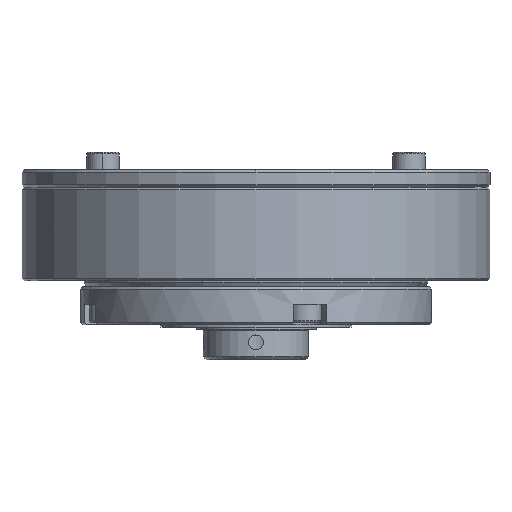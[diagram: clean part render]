
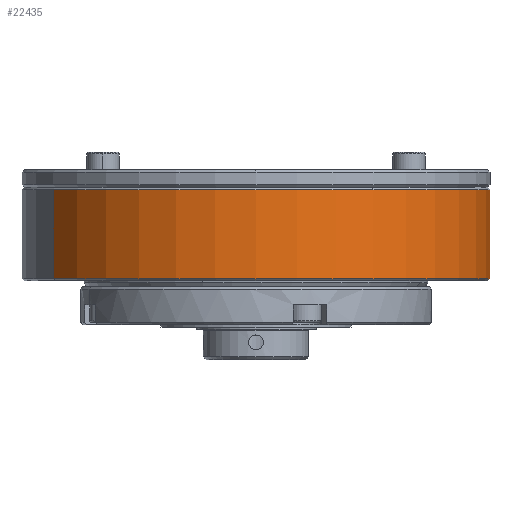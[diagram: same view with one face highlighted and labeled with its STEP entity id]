
A CAD part, front view. The second image highlights one B-rep face of the part: STEP entity #22435.
In plain terms, the highlighted cylindrical face has radius 40 mm (diameter 80 mm), a partial arc.
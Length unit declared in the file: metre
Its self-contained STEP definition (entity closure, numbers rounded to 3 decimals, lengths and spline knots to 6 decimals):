
#38 = CARTESIAN_POINT ( 'NONE',  ( 0., 0., 0.0073 ) ) ;
#988 = CARTESIAN_POINT ( 'NONE',  ( 0., 0., 0.0229 ) ) ;
#996 = EDGE_CURVE ( 'NONE', #29848, #3581, #8835, .T. ) ;
#1430 = CARTESIAN_POINT ( 'NONE',  ( 0.034641, 0.02, 0.0073 ) ) ;
#1969 = AXIS2_PLACEMENT_3D ( 'NONE', #38, #2480, #21440 ) ;
#2480 = DIRECTION ( 'NONE',  ( 0., 0., 1. ) ) ;
#2618 = VECTOR ( 'NONE', #25332, 1. ) ;
#2825 = EDGE_CURVE ( 'NONE', #10274, #3581, #22032, .T. ) ;
#3581 = VERTEX_POINT ( 'NONE', #26723 ) ;
#3887 = VERTEX_POINT ( 'NONE', #12506 ) ;
#4499 = CARTESIAN_POINT ( 'NONE',  ( 0., 0., 0.0225 ) ) ;
#5279 = FACE_OUTER_BOUND ( 'NONE', #26251, .T. ) ;
#5567 = AXIS2_PLACEMENT_3D ( 'NONE', #4499, #16446, #27189 ) ;
#5771 = CARTESIAN_POINT ( 'NONE',  ( 0., 0., 0.0225 ) ) ;
#8592 = AXIS2_PLACEMENT_3D ( 'NONE', #988, #24920, #28660 ) ;
#8835 = LINE ( 'NONE', #16319, #2618 ) ;
#9753 = ORIENTED_EDGE ( 'NONE', *, *, #11699, .T. ) ;
#10274 = VERTEX_POINT ( 'NONE', #20211 ) ;
#10312 = VERTEX_POINT ( 'NONE', #1430 ) ;
#11699 = EDGE_CURVE ( 'NONE', #3887, #10274, #29955, .T. ) ;
#11764 = LINE ( 'NONE', #26134, #28569 ) ;
#12498 = CARTESIAN_POINT ( 'NONE',  ( -0.034641, -0.02, 0.0073 ) ) ;
#12506 = CARTESIAN_POINT ( 'NONE',  ( 0.034641, 0.02, 0.0225 ) ) ;
#12512 = DIRECTION ( 'NONE',  ( 0., 0., -1. ) ) ;
#14599 = EDGE_CURVE ( 'NONE', #29848, #10312, #23427, .T. ) ;
#16186 = AXIS2_PLACEMENT_3D ( 'NONE', #5771, #12512, #26698 ) ;
#16319 = CARTESIAN_POINT ( 'NONE',  ( -0.034641, -0.02, 0.0229 ) ) ;
#16446 = DIRECTION ( 'NONE',  ( 0., 0., -1. ) ) ;
#20211 = CARTESIAN_POINT ( 'NONE',  ( 0.02, -0.034641, 0.0225 ) ) ;
#20442 = EDGE_CURVE ( 'NONE', #10312, #3887, #11764, .T. ) ;
#21440 = DIRECTION ( 'NONE',  ( 0.866, 0.5, 0. ) ) ;
#22032 = CIRCLE ( 'NONE', #16186, 0.04 ) ;
#22435 = ADVANCED_FACE ( 'NONE', ( #5279 ), #26214, .T. ) ;
#22613 = ORIENTED_EDGE ( 'NONE', *, *, #14599, .T. ) ;
#23183 = ORIENTED_EDGE ( 'NONE', *, *, #2825, .T. ) ;
#23427 = CIRCLE ( 'NONE', #1969, 0.04 ) ;
#24920 = DIRECTION ( 'NONE',  ( 0., 0., 1. ) ) ;
#25332 = DIRECTION ( 'NONE',  ( 0., 0., 1. ) ) ;
#25954 = DIRECTION ( 'NONE',  ( 0., 0., 1. ) ) ;
#26134 = CARTESIAN_POINT ( 'NONE',  ( 0.034641, 0.02, 0.0229 ) ) ;
#26214 = CYLINDRICAL_SURFACE ( 'NONE', #8592, 0.04 ) ;
#26251 = EDGE_LOOP ( 'NONE', ( #27377, #22613, #28231, #9753, #23183 ) ) ;
#26698 = DIRECTION ( 'NONE',  ( 0.866, 0.5, 0. ) ) ;
#26723 = CARTESIAN_POINT ( 'NONE',  ( -0.034641, -0.02, 0.0225 ) ) ;
#27189 = DIRECTION ( 'NONE',  ( 0.866, 0.5, 0. ) ) ;
#27377 = ORIENTED_EDGE ( 'NONE', *, *, #996, .F. ) ;
#28231 = ORIENTED_EDGE ( 'NONE', *, *, #20442, .T. ) ;
#28569 = VECTOR ( 'NONE', #25954, 1. ) ;
#28660 = DIRECTION ( 'NONE',  ( 0.866, 0.5, 0. ) ) ;
#29848 = VERTEX_POINT ( 'NONE', #12498 ) ;
#29955 = CIRCLE ( 'NONE', #5567, 0.04 ) ;
